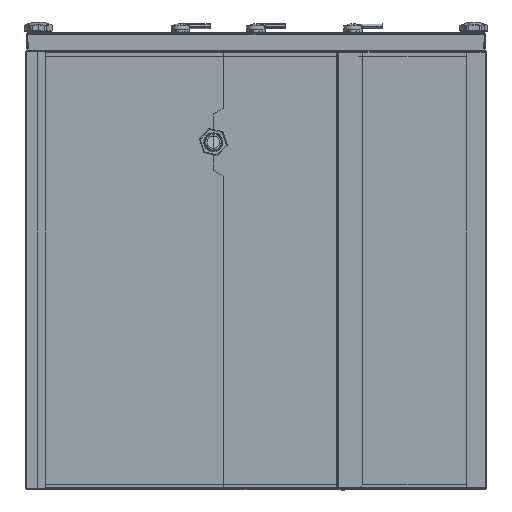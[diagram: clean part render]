
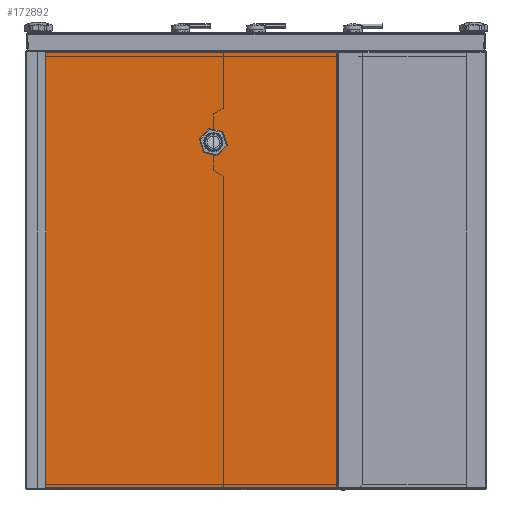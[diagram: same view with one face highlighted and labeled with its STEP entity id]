
A CAD part, front view. The second image highlights one B-rep face of the part: STEP entity #172892.
In plain terms, the highlighted planar face has unit normal (0, -1, 0).
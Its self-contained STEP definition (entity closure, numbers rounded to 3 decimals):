
#307 = EDGE_CURVE ( 'NONE', #162154, #174920, #4870, .T. ) ;
#2926 = ORIENTED_EDGE ( 'NONE', *, *, #133101, .F. ) ;
#3364 = CIRCLE ( 'NONE', #169475, 11.75 ) ;
#4870 = LINE ( 'NONE', #33499, #189025 ) ;
#6664 = DIRECTION ( 'NONE',  ( 1., 0., 0. ) ) ;
#7050 = CARTESIAN_POINT ( 'NONE',  ( -379., -0.9, 264.65 ) ) ;
#8282 = DIRECTION ( 'NONE',  ( 0., -1., 0. ) ) ;
#9059 = CARTESIAN_POINT ( 'NONE',  ( -379., -0.9, 264.65 ) ) ;
#9568 = DIRECTION ( 'NONE',  ( 1., 0., 0. ) ) ;
#15040 = DIRECTION ( 'NONE',  ( 1., 0., 0. ) ) ;
#15411 = EDGE_CURVE ( 'NONE', #76189, #174920, #155281, .T. ) ;
#15987 = CARTESIAN_POINT ( 'NONE',  ( -1.8, -0.9, 264.65 ) ) ;
#25829 = EDGE_CURVE ( 'NONE', #96646, #102444, #161965, .T. ) ;
#27578 = EDGE_CURVE ( 'NONE', #102444, #96646, #3364, .T. ) ;
#32315 = DIRECTION ( 'NONE',  ( 1., 0., 0. ) ) ;
#32534 = DIRECTION ( 'NONE',  ( -1., 0., 0. ) ) ;
#32928 = VECTOR ( 'NONE', #191905, 1000. ) ;
#33499 = CARTESIAN_POINT ( 'NONE',  ( -334.9, -0.9, -264.65 ) ) ;
#36164 = CARTESIAN_POINT ( 'NONE',  ( -140.25, -0.9, 155.75 ) ) ;
#36678 = EDGE_CURVE ( 'NONE', #143606, #122263, #148353, .T. ) ;
#38129 = DIRECTION ( 'NONE',  ( 0., 0., -1. ) ) ;
#46680 = CARTESIAN_POINT ( 'NONE',  ( -152., -0.9, 155.75 ) ) ;
#62517 = EDGE_LOOP ( 'NONE', ( #142653, #122064, #136204, #158524, #2926, #144687 ) ) ;
#66558 = VECTOR ( 'NONE', #145614, 1000. ) ;
#68515 = EDGE_CURVE ( 'NONE', #76189, #172308, #124607, .T. ) ;
#76189 = VERTEX_POINT ( 'NONE', #15987 ) ;
#81865 = CARTESIAN_POINT ( 'NONE',  ( -379., -0.9, -264.65 ) ) ;
#82963 = VECTOR ( 'NONE', #32534, 1000. ) ;
#83754 = CARTESIAN_POINT ( 'NONE',  ( -1.8, -0.9, -264.65 ) ) ;
#84166 = CARTESIAN_POINT ( 'NONE',  ( -1.8, -0.9, 264.65 ) ) ;
#86050 = DIRECTION ( 'NONE',  ( 0., 0., 1. ) ) ;
#87581 = ORIENTED_EDGE ( 'NONE', *, *, #27578, .F. ) ;
#93408 = DIRECTION ( 'NONE',  ( 0., -1., 0. ) ) ;
#96646 = VERTEX_POINT ( 'NONE', #128904 ) ;
#102444 = VERTEX_POINT ( 'NONE', #36164 ) ;
#105392 = FACE_BOUND ( 'NONE', #106632, .T. ) ;
#106632 = EDGE_LOOP ( 'NONE', ( #87581, #185369 ) ) ;
#107250 = AXIS2_PLACEMENT_3D ( 'NONE', #7050, #133278, #86050 ) ;
#113446 = CARTESIAN_POINT ( 'NONE',  ( -1.8, -0.9, 264.65 ) ) ;
#115783 = LINE ( 'NONE', #81865, #66558 ) ;
#118406 = VECTOR ( 'NONE', #38129, 1000. ) ;
#122064 = ORIENTED_EDGE ( 'NONE', *, *, #307, .T. ) ;
#122263 = VERTEX_POINT ( 'NONE', #169924 ) ;
#124607 = LINE ( 'NONE', #113446, #82963 ) ;
#127699 = CARTESIAN_POINT ( 'NONE',  ( -379., -0.9, 264.65 ) ) ;
#128904 = CARTESIAN_POINT ( 'NONE',  ( -163.75, -0.9, 155.75 ) ) ;
#130780 = VECTOR ( 'NONE', #32315, 1000. ) ;
#131913 = PLANE ( 'NONE',  #107250 ) ;
#133101 = EDGE_CURVE ( 'NONE', #143606, #172308, #138044, .T. ) ;
#133278 = DIRECTION ( 'NONE',  ( 0., 1., 0. ) ) ;
#136204 = ORIENTED_EDGE ( 'NONE', *, *, #15411, .F. ) ;
#138044 = LINE ( 'NONE', #127699, #130780 ) ;
#142586 = CARTESIAN_POINT ( 'NONE',  ( -354.9, -0.9, 264.65 ) ) ;
#142653 = ORIENTED_EDGE ( 'NONE', *, *, #181900, .T. ) ;
#143606 = VERTEX_POINT ( 'NONE', #9059 ) ;
#144687 = ORIENTED_EDGE ( 'NONE', *, *, #36678, .T. ) ;
#145614 = DIRECTION ( 'NONE',  ( 1., 0., 0. ) ) ;
#145927 = CARTESIAN_POINT ( 'NONE',  ( -379., -0.9, 264.65 ) ) ;
#148353 = LINE ( 'NONE', #145927, #32928 ) ;
#155281 = LINE ( 'NONE', #84166, #118406 ) ;
#158524 = ORIENTED_EDGE ( 'NONE', *, *, #68515, .T. ) ;
#160607 = CARTESIAN_POINT ( 'NONE',  ( -334.9, -0.9, -264.65 ) ) ;
#161965 = CIRCLE ( 'NONE', #165303, 11.75 ) ;
#162154 = VERTEX_POINT ( 'NONE', #160607 ) ;
#165303 = AXIS2_PLACEMENT_3D ( 'NONE', #46680, #93408, #15040 ) ;
#169475 = AXIS2_PLACEMENT_3D ( 'NONE', #197679, #8282, #9568 ) ;
#169924 = CARTESIAN_POINT ( 'NONE',  ( -379., -0.9, -264.65 ) ) ;
#172308 = VERTEX_POINT ( 'NONE', #142586 ) ;
#172892 = ADVANCED_FACE ( 'NONE', ( #105392, #183989 ), #131913, .F. ) ;
#174920 = VERTEX_POINT ( 'NONE', #83754 ) ;
#181900 = EDGE_CURVE ( 'NONE', #122263, #162154, #115783, .T. ) ;
#183989 = FACE_OUTER_BOUND ( 'NONE', #62517, .T. ) ;
#185369 = ORIENTED_EDGE ( 'NONE', *, *, #25829, .F. ) ;
#189025 = VECTOR ( 'NONE', #6664, 1000. ) ;
#191905 = DIRECTION ( 'NONE',  ( 0., 0., -1. ) ) ;
#197679 = CARTESIAN_POINT ( 'NONE',  ( -152., -0.9, 155.75 ) ) ;
